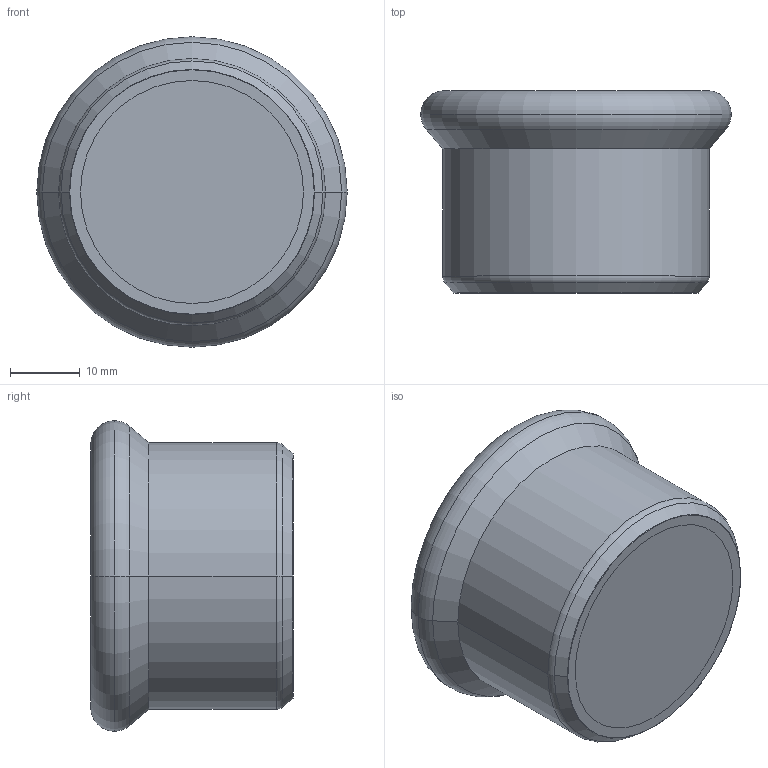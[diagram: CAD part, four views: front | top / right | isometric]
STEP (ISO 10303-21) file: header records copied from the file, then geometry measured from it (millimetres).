
FILE_DESCRIPTION(('OneSpaceDesigner STEP Export'),'2;1');
FILE_NAME('R2729 35.stp','2010-06-10T13:33:01',(''),(''),'OneSpace Designer STEP processor for AP214 (Solid Model)','OneSpace Modeling 15.00A 14-Mar-2007 (C) CoCreate Software GmbH','');
FILE_SCHEMA(('AUTOMOTIVE_DESIGN { 1 0 10303 214 1 1 1 1 }'));
Length unit declared in the file: millimetre
Products named in the file (2): R2729_35
Assembly tree (1 placements, depth 2):
  R2729_35
    R2729_35
Bounding box: 44.55 x 29.05 x 44.55 mm (x, y, z)
Volume: 8148.1 mm3; surface area: 10400.6 mm2
Topology: 1 solids, 1 shells, 61 faces, 147 edges, 94 vertices
Faces by surface type: plane 32, cylinder 17, torus 8, cone 4
Entity records: 1607 total; most frequent: ORIENTED_EDGE 294, CARTESIAN_POINT 257, DIRECTION 239, EDGE_CURVE 147, VERTEX_POINT 94, VECTOR 87, LINE 87, AXIS2_PLACEMENT_3D 76
